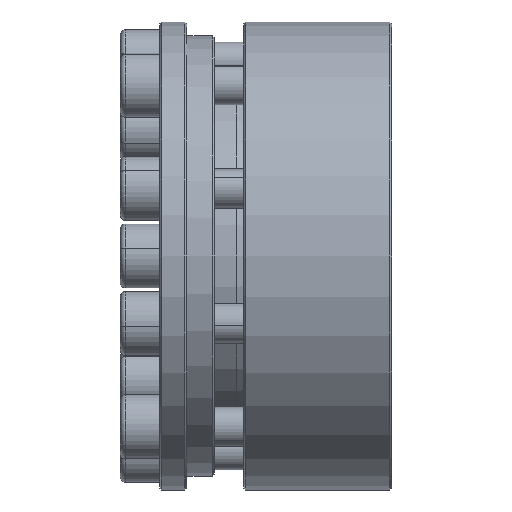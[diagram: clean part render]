
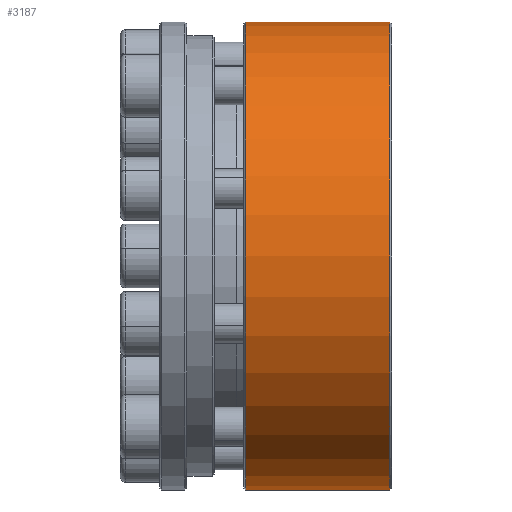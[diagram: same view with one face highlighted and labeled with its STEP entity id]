
A CAD part, front view. The second image highlights one B-rep face of the part: STEP entity #3187.
In plain terms, the highlighted cylindrical face has radius 47.45 mm (diameter 94.9 mm), a partial arc.
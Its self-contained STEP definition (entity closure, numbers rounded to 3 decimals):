
#8 = EDGE_CURVE ( 'NONE', #3148, #7968, #5386, .T. ) ;
#64 = EDGE_CURVE ( 'NONE', #3148, #7972, #6894, .T. ) ;
#862 = ORIENTED_EDGE ( 'NONE', *, *, #64, .F. ) ;
#1019 = DIRECTION ( 'NONE',  ( 0., 0., 1. ) ) ;
#1255 = VECTOR ( 'NONE', #6740, 1000. ) ;
#1432 = DIRECTION ( 'NONE',  ( -1., 0., 0. ) ) ;
#1772 = CARTESIAN_POINT ( 'NONE',  ( -59.166, 26.04, -47.45 ) ) ;
#1805 = VERTEX_POINT ( 'NONE', #2911 ) ;
#1831 = DIRECTION ( 'NONE',  ( 0., 0., -1. ) ) ;
#1865 = ORIENTED_EDGE ( 'NONE', *, *, #2756, .T. ) ;
#2196 = DIRECTION ( 'NONE',  ( -1., 0., 0. ) ) ;
#2479 = EDGE_LOOP ( 'NONE', ( #862, #6179, #8394, #1865 ) ) ;
#2521 = CYLINDRICAL_SURFACE ( 'NONE', #8065, 47.45 ) ;
#2756 = EDGE_CURVE ( 'NONE', #1805, #7972, #3121, .T. ) ;
#2911 = CARTESIAN_POINT ( 'NONE',  ( -88.366, 26.04, 47.45 ) ) ;
#2990 = CARTESIAN_POINT ( 'NONE',  ( -88.366, 26.04, -47.45 ) ) ;
#3092 = CARTESIAN_POINT ( 'NONE',  ( -59.166, 26.04, 47.45 ) ) ;
#3121 = CIRCLE ( 'NONE', #6464, 47.45 ) ;
#3148 = VERTEX_POINT ( 'NONE', #1772 ) ;
#3162 = AXIS2_PLACEMENT_3D ( 'NONE', #7564, #2196, #6825 ) ;
#3187 = ADVANCED_FACE ( 'NONE', ( #9314 ), #2521, .T. ) ;
#3669 = CARTESIAN_POINT ( 'NONE',  ( -88.766, 26.04, 47.45 ) ) ;
#3707 = CARTESIAN_POINT ( 'NONE',  ( -88.766, 26.04, -47.45 ) ) ;
#5386 = CIRCLE ( 'NONE', #3162, 47.45 ) ;
#5550 = CARTESIAN_POINT ( 'NONE',  ( -88.766, 26.04, 0. ) ) ;
#6179 = ORIENTED_EDGE ( 'NONE', *, *, #8, .T. ) ;
#6464 = AXIS2_PLACEMENT_3D ( 'NONE', #9376, #8639, #1831 ) ;
#6740 = DIRECTION ( 'NONE',  ( -1., 0., 0. ) ) ;
#6820 = EDGE_CURVE ( 'NONE', #7968, #1805, #8235, .T. ) ;
#6825 = DIRECTION ( 'NONE',  ( 0., 0., 1. ) ) ;
#6894 = LINE ( 'NONE', #3707, #1255 ) ;
#7564 = CARTESIAN_POINT ( 'NONE',  ( -59.166, 26.04, 0. ) ) ;
#7831 = DIRECTION ( 'NONE',  ( -1., 0., 0. ) ) ;
#7957 = VECTOR ( 'NONE', #1432, 1000. ) ;
#7968 = VERTEX_POINT ( 'NONE', #3092 ) ;
#7972 = VERTEX_POINT ( 'NONE', #2990 ) ;
#8065 = AXIS2_PLACEMENT_3D ( 'NONE', #5550, #7831, #1019 ) ;
#8235 = LINE ( 'NONE', #3669, #7957 ) ;
#8394 = ORIENTED_EDGE ( 'NONE', *, *, #6820, .T. ) ;
#8639 = DIRECTION ( 'NONE',  ( 1., 0., 0. ) ) ;
#9314 = FACE_OUTER_BOUND ( 'NONE', #2479, .T. ) ;
#9376 = CARTESIAN_POINT ( 'NONE',  ( -88.366, 26.04, 0. ) ) ;
